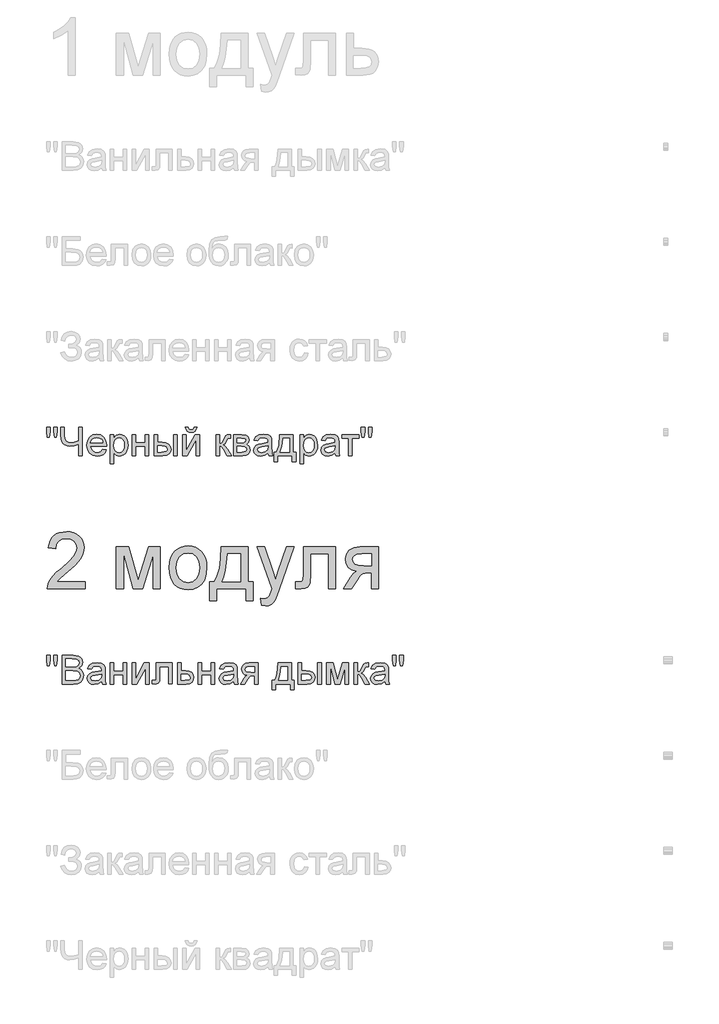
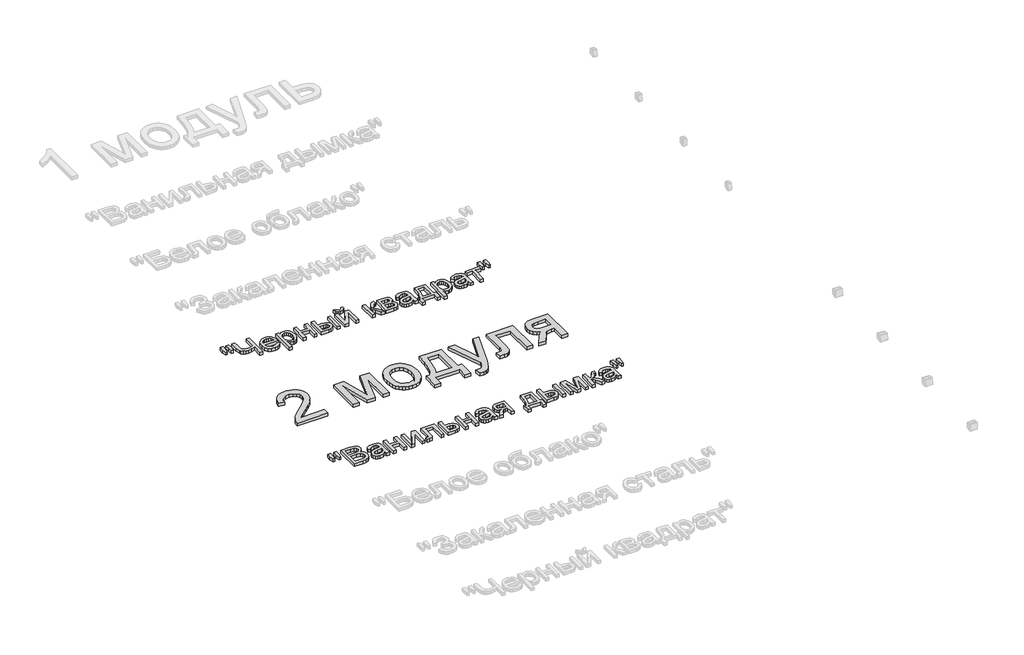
# One storey, part 25 of 168: 3 proxies.
"""IFC4 building model written with IfcOpenShell, lengths in millimetres."""

from ifc_helpers import new_model, si_unit, origin, origin_with_axes, place, context, project, spatial, polyline, outline, extrude, element, save

model = new_model("IFC4")

# Units and contexts
model_context = context("Model", 3, world=origin())
ifc_project = project(units=[si_unit("LENGTHUNIT", "METRE", prefix="MILLI")], contexts=[model_context])

# Site, building, storey
site = spatial("IfcSite", under=ifc_project)
building = spatial("IfcBuilding", under=site)
storey = spatial("IfcBuildingStorey", under=building, Name="Этаж 01", Elevation=0.0)

# Proxies
placement = place(None, origin())
element("IfcBuildingElementProxy", 1, Name="300 мм Arial 2", ObjectType="300 мм Arial 2", at=placement, inside=storey, context=model_context, shape_type="SweptSolid", body=[
    extrude(outline(polyline([(49278.0323041, -51229.1911814), (49278.0323041, -51266.8622977), (49080.2589435, -51266.8622977), (49084.3056455, -51240.8898289), (49093.5946658, -51220.5919398), (49107.1879056, -51200.901056), (49126.8511982, -51180.2904672), (49154.3503773, -51157.2334632), (49195.0013378, -51121.1258453), (49219.3919141, -51094.4727948), (49231.5872022, -51072.8413335), (49235.6522983, -51051.7984834), (49231.8171285, -51032.9353341), (49220.3116191, -51017.254364), (49202.6256922, -51006.6869537), (49180.2492698, -51003.1644836), (49156.7508074, -51006.6041802), (49138.4946633, -51016.9232702), (49126.7132424, -51033.3124131), (49122.6389493, -51054.9622685), (49084.967833, -51050.253379), (49094.1005036, -51013.8146674), (49102.6468622, -50999.27873), (49113.8465697, -50987.198405), (49127.4421086, -50977.702451), (49143.1759617, -50970.9196267), (49181.0586102, -50965.4933673), (49201.2484339, -50967.0016835), (49219.2171701, -50971.526632), (49234.9648188, -50979.0682129), (49248.4913799, -50989.6264262), (49259.3553951, -51002.4195226), (49267.1154059, -51016.6657528), (49271.7714124, -51032.365117), (49273.3234146, -51049.517615), (49271.6495515, -51067.5346357), (49266.6279623, -51085.2389567), (49257.7160209, -51103.2467804), (49244.3711016, -51122.174309), (49223.0983252, -51144.7714606), (49190.4028129, -51173.788153), (49147.0663138, -51210.0245295), (49130.0701657, -51229.1911814), (49278.0323041, -51229.1911814)])), origin_with_axes(), (0.0, 0.0, 1.0), 20.0),
    extrude(outline(polyline([(49442.843438, -51045.5444894), (49507.6642455, -51045.5444894), (49557.6226204, -51222.7164583), (49611.4805445, -51045.5444894), (49673.5790253, -51045.5444894), (49673.5790253, -51266.8622977), (49635.907909, -51266.8622977), (49635.907909, -51088.6602593), (49581.7556793, -51266.8622977), (49532.3123392, -51266.8622977), (49480.5145543, -51080.125397), (49480.5145543, -51266.8622977), (49442.843438, -51266.8622977), (49442.843438, -51045.5444894)])), origin_with_axes(), (0.0, 0.0, 1.0), 20.0),
    extrude(outline(polyline([(49720.6679207, -51156.2033936), (49722.7050673, -51127.5407876), (49728.8165069, -51102.8421102), (49739.0022396, -51082.1073612), (49753.2622655, -51065.3365408), (49767.6188603, -51054.6173791), (49783.4653773, -51046.9608351), (49800.8018163, -51042.3669087), (49819.6281774, -51040.8355999), (49840.4112109, -51042.7003018), (49859.203083, -51048.2944073), (49876.0037939, -51057.6179167), (49890.8133435, -51070.6708297), (49902.9005663, -51087.0116881), (49911.5342969, -51106.1990334), (49916.7145352, -51128.2328656), (49918.4412813, -51153.1131848), (49915.3878608, -51191.1705772), (49906.2275991, -51220.1412843), (49891.2272107, -51241.837125), (49870.6534101, -51258.069918), (49846.2168486, -51268.19587), (49819.6281774, -51271.5711873), (49798.5416413, -51269.7133832), (49779.5750252, -51264.139971), (49762.7283291, -51254.8509506), (49748.001553, -51241.8463221), (49736.0430888, -51225.3468146), (49727.5013288, -51205.5731573), (49722.3762727, -51182.5253503), (49720.6679207, -51156.2033936)]), holes=[polyline([(49758.339037, -51156.1298172), (49762.6984387, -51190.2232811), (49775.7766436, -51214.5126898), (49795.4583303, -51229.0532257), (49819.6281774, -51233.900071), (49843.6876599, -51229.0256345), (49863.3325584, -51214.4023252), (49876.4107634, -51189.7910197), (49880.770165, -51154.9525948), (49876.3831722, -51121.8524123), (49863.2221938, -51097.8940973), (49843.5497041, -51083.3535615), (49819.6281774, -51078.5067162), (49795.4583303, -51083.3351674), (49775.7766436, -51097.820521), (49762.6984387, -51122.0547474), (49758.339037, -51156.1298172)])]), origin_with_axes(), (0.0, 0.0, 1.0), 20.0),
    extrude(outline(polyline([(49993.7835139, -51045.5444894), (50135.0502001, -51045.5444894), (50135.0502001, -51229.1911814), (50163.3035373, -51229.1911814), (50163.3035373, -51328.0778617), (50125.632421, -51328.0778617), (50125.632421, -51266.8622977), (49970.2390662, -51266.8622977), (49970.2390662, -51328.0778617), (49932.5679499, -51328.0778617), (49932.5679499, -51229.1911814), (49956.1123976, -51229.1911814), (49973.2281074, -51198.2615027), (49985.2118634, -51157.3438278), (49992.0636656, -51106.4381567), (49993.7835139, -51045.5444894)]), holes=[polyline([(50026.7457407, -51083.2156057), (50023.6555319, -51129.3388109), (50017.9165728, -51169.0424752), (50009.5288633, -51202.3265987), (49998.4924035, -51229.1911814), (50097.3790838, -51229.1911814), (50097.3790838, -51083.2156057), (50026.7457407, -51083.2156057)])]), origin_with_axes(), (0.0, 0.0, 1.0), 20.0),
    extrude(outline(polyline([(50205.6835431, -51351.6223094), (50200.9746536, -51315.3491447), (50220.1045174, -51318.6600827), (50237.9835823, -51314.5030161), (50248.9464658, -51302.9147333), (50259.2471616, -51275.1764308), (50262.1902176, -51266.0529573), (50182.1390955, -51045.5444894), (50221.8703509, -51045.5444894), (50264.3239332, -51168.4170758), (50279.1127894, -51217.5661104), (50293.9016456, -51174.1560349), (50337.5324502, -51045.5444894), (50376.9694001, -51045.5444894), (50299.9349103, -51272.1597985), (50279.9221298, -51321.308833), (50269.6766162, -51336.9990001), (50258.0699393, -51347.8699131), (50244.5870641, -51354.2158775), (50228.712956, -51356.331199), (50205.6835431, -51351.6223094)])), origin_with_axes(), (0.0, 0.0, 1.0), 20.0),
    extrude(outline(polyline([(50427.0013514, -51045.5444894), (50596.5213748, -51045.5444894), (50596.5213748, -51266.6415685), (50558.8502585, -51266.6415685), (50558.8502585, -51083.2156057), (50464.6724678, -51083.2156057), (50464.6724678, -51188.7977384), (50462.134082, -51237.5053145), (50457.3792072, -51248.5325773), (50448.1913544, -51258.069918), (50434.2486268, -51264.6642028), (50415.2291276, -51266.8622977), (50384.6213456, -51264.9493114), (50384.6213456, -51229.1911814), (50401.470341, -51229.1911814), (50418.5032774, -51226.8735249), (50425.3090943, -51219.515885), (50427.0013514, -51186.6640228), (50427.0013514, -51045.5444894)])), origin_with_axes(), (0.0, 0.0, 1.0), 20.0),
    extrude(outline(polyline([(50822.5480727, -51045.5444894), (50822.5480727, -51266.8622977), (50784.8769564, -51266.8622977), (50784.8769564, -51182.102286), (50764.349141, -51182.102286), (50736.3901094, -51186.884752), (50725.2248908, -51197.3142065), (50710.1233349, -51219.0376384), (50680.1041641, -51266.8622977), (50636.5469359, -51266.8622977), (50674.365205, -51206.3824977), (50691.0670476, -51184.67746), (50706.444515, -51175.0389517), (50680.6927753, -51167.1478829), (50662.5929812, -51152.1566916), (50651.8876151, -51132.2174875), (50648.3191597, -51109.4823802), (50653.1935962, -51083.6938523), (50667.8169055, -51063.2764016), (50691.6740529, -51049.9774675), (50724.2500036, -51045.5444894), (50822.5480727, -51045.5444894)]), holes=[polyline([(50784.8769564, -51083.2156057), (50735.212887, -51083.2156057), (50709.5623149, -51085.3953066), (50695.0033849, -51091.934409), (50688.2435533, -51101.3981734), (50685.9902761, -51112.3518598), (50689.3104111, -51126.7084546), (50699.2708161, -51136.6688596), (50717.6741129, -51142.4905922), (50746.3229233, -51144.4311697), (50784.8769564, -51144.4311697), (50784.8769564, -51083.2156057)])]), origin_with_axes(), (0.0, 0.0, 1.0), 20.0),
])
element("IfcBuildingElementProxy", 2, Name="150", ObjectType="150", at=placement, inside=storey, context=model_context, shape_type="SweptSolid", body=[
    extrude(outline(polyline([(49080.1485789, -50470.3300622), (49075.550054, -50441.2305964), (49075.550054, -50416.1778325), (49094.3856121, -50416.1778325), (49094.3856121, -50441.2305964), (49090.2653338, -50470.3300622), (49080.1485789, -50470.3300622)])), origin_with_axes(), (0.0, 0.0, 1.0), 20.0),
    extrude(outline(polyline([(49117.7093306, -50470.3300622), (49113.2211703, -50441.2305964), (49113.2211703, -50416.1778325), (49132.0567284, -50416.1778325), (49132.0567284, -50441.2305964), (49127.6421445, -50470.3300622), (49117.7093306, -50470.3300622)])), origin_with_axes(), (0.0, 0.0, 1.0), 20.0),
    extrude(outline(polyline([(49263.9056355, -50566.8622977), (49245.0700773, -50566.8622977), (49245.0700773, -50506.5296505), (49220.0908899, -50514.6966308), (49198.4226404, -50517.4189576), (49183.7395502, -50515.556555), (49170.886673, -50509.9693472), (49160.926268, -50501.5172583), (49154.9205944, -50491.0602126), (49150.8922866, -50461.0594359), (49150.8922866, -50416.1778325), (49169.7278447, -50416.1778325), (49169.7278447, -50458.5210502), (49171.990319, -50478.8879171), (49178.7777418, -50490.8394834), (49188.7381468, -50496.6474204), (49200.5195677, -50498.5833994), (49222.2521966, -50496.2473488), (49245.0700773, -50489.2391968), (49245.0700773, -50416.1778325), (49263.9056355, -50416.1778325), (49263.9056355, -50566.8622977)])), origin_with_axes(), (0.0, 0.0, 1.0), 20.0),
    extrude(outline(polyline([(49371.9893657, -50533.900071), (49390.4570418, -50536.2545157), (49383.8029762, -50550.1696522), (49373.1849822, -50560.5715156), (49358.8421829, -50567.0554358), (49341.0137017, -50569.2167425), (49318.9131908, -50565.4873388), (49301.9078456, -50554.2991276), (49291.0645238, -50536.3786759), (49287.4500832, -50512.4525506), (49291.101312, -50487.7216835), (49302.0549984, -50469.2264162), (49318.8304174, -50457.6933157), (49339.9468439, -50453.8489488), (49360.4056814, -50457.6841186), (49376.7534375, -50469.189628), (49387.4725992, -50487.6481071), (49391.045653, -50512.342186), (49390.9352884, -50517.4189576), (49306.2856413, -50517.4189576), (49309.5459955, -50531.518035), (49317.1197661, -50541.8831103), (49328.0504599, -50548.2566658), (49341.3815837, -50550.3811843), (49359.8492598, -50546.444847), (49371.9893657, -50533.900071)]), holes=[polyline([(49306.2856413, -50498.5833994), (49372.2100949, -50498.5833994), (49369.6625121, -50488.6321915), (49364.668514, -50481.5136749), (49353.6872364, -50474.8917989), (49339.8732675, -50472.684507), (49327.1767401, -50474.445742), (49316.6783077, -50479.7294472), (49309.3804486, -50487.9654053), (49306.2856413, -50498.5833994)])]), origin_with_axes(), (0.0, 0.0, 1.0), 20.0),
    extrude(outline(polyline([(49409.8812112, -50609.2423036), (49409.8812112, -50456.2033936), (49428.7167693, -50456.2033936), (49428.7167693, -50474.6710697), (49441.739792, -50459.054479), (49459.3245513, -50453.8489488), (49472.0624654, -50455.6699647), (49483.2000928, -50461.1330123), (49492.268384, -50469.9069979), (49498.7982894, -50481.6608277), (49504.0590019, -50510.6867171), (49502.5736784, -50526.7953499), (49498.1177077, -50541.2025286), (49490.8336442, -50553.1770875), (49480.8640422, -50561.9878613), (49469.2527667, -50567.4095222), (49457.043683, -50569.2167425), (49440.6545401, -50564.3790943), (49428.7167693, -50552.1470179), (49428.7167693, -50609.2423036), (49409.8812112, -50609.2423036)]), holes=[polyline([(49428.7167693, -50512.4157624), (49430.7539159, -50529.301546), (49436.8653555, -50541.1105581), (49445.8830629, -50548.0635278), (49456.6390128, -50550.3811843), (49467.5697066, -50547.9807543), (49476.8173402, -50540.7794643), (49483.1219179, -50528.5381909), (49485.2234438, -50511.0178109), (49483.1725017, -50494.2239978), (49477.0196753, -50482.2494388), (49468.0157635, -50475.0757399), (49457.411565, -50472.684507), (49446.7659797, -50475.2274913), (49437.4171785, -50482.8564441), (49430.8918716, -50495.3322423), (49428.7167693, -50512.4157624)])]), origin_with_axes(), (0.0, 0.0, 1.0), 20.0),
    extrude(outline(polyline([(49525.2490049, -50456.2033936), (49544.084563, -50456.2033936), (49544.084563, -50498.5833994), (49593.5279032, -50498.5833994), (49593.5279032, -50456.2033936), (49612.3634613, -50456.2033936), (49612.3634613, -50566.8622977), (49593.5279032, -50566.8622977), (49593.5279032, -50517.4189576), (49544.084563, -50517.4189576), (49544.084563, -50566.8622977), (49525.2490049, -50566.8622977), (49525.2490049, -50456.2033936)])), origin_with_axes(), (0.0, 0.0, 1.0), 20.0),
    extrude(outline(polyline([(49744.2123684, -50456.2033936), (49763.0479266, -50456.2033936), (49763.0479266, -50566.8622977), (49744.2123684, -50566.8622977), (49744.2123684, -50456.2033936)])), origin_with_axes(), (0.0, 0.0, 1.0), 20.0),
    extrude(outline(polyline([(49640.6167986, -50456.2033936), (49659.4523567, -50456.2033936), (49659.4523567, -50496.2289547), (49682.739287, -50496.2289547), (49702.8670307, -50498.587998), (49717.780047, -50505.6651278), (49727.0092866, -50516.8901272), (49730.0856998, -50531.692779), (49727.5059273, -50545.1710556), (49719.7666098, -50556.5432078), (49706.3619096, -50564.2825252), (49686.785989, -50566.8622977), (49640.6167986, -50566.8622977), (49640.6167986, -50456.2033936)]), holes=[polyline([(49659.4523567, -50548.0267396), (49678.8029497, -50548.0267396), (49703.7821371, -50544.0720081), (49709.3831405, -50539.0090322), (49711.2501416, -50531.7295672), (49705.7135176, -50520.1412843), (49696.8337659, -50516.3337057), (49681.267759, -50515.0645128), (49659.4523567, -50515.0645128), (49659.4523567, -50548.0267396)])]), origin_with_axes(), (0.0, 0.0, 1.0), 20.0),
    extrude(outline(polyline([(49791.3012638, -50456.2033936), (49810.1368219, -50456.2033936), (49810.1368219, -50540.5955233), (49856.4163769, -50456.2033936), (49880.770165, -50456.2033936), (49880.770165, -50566.8622977), (49861.9346069, -50566.8622977), (49861.9346069, -50482.9852028), (49815.9493575, -50566.8622977), (49791.3012638, -50566.8622977), (49791.3012638, -50456.2033936)])), origin_with_axes(), (0.0, 0.0, 1.0), 20.0),
    extrude(outline(polyline([(49852.5168278, -50416.1778325), (49866.6434964, -50416.1778325), (49863.6038714, -50428.2397634), (49857.5016288, -50437.1287121), (49848.6126801, -50442.6055553), (49837.2129368, -50444.4311697), (49824.8429047, -50442.6193509), (49815.2503817, -50437.1838944), (49808.6928851, -50428.3087413), (49805.4279324, -50416.1778325), (49819.554601, -50416.1778325), (49824.8521017, -50426.7912281), (49835.5206796, -50430.3045011), (49847.219327, -50426.9015927), (49852.5168278, -50416.1778325)])), origin_with_axes(), (0.0, 0.0, 1.0), 20.0),
    extrude(outline(polyline([(49967.8846215, -50456.2033936), (49986.7201796, -50456.2033936), (49986.7201796, -50503.292289), (49999.3385321, -50499.9077746), (50009.6760161, -50480.1892997), (50018.2660607, -50463.1747574), (50025.8444298, -50457.6381334), (50039.6216105, -50456.2033936), (50043.2268541, -50456.2033936), (50043.2268541, -50475.1493163), (50038.1500825, -50475.0389517), (50028.9530327, -50477.0255145), (50022.4783096, -50489.4231377), (50014.8815464, -50502.8324365), (50004.2313626, -50509.3991301), (50016.113951, -50516.7291788), (50027.7758103, -50532.1710256), (50047.9357436, -50566.8622977), (50026.5250115, -50566.8622977), (50006.7697484, -50532.9067896), (49996.8369345, -50518.5409977), (49986.7201796, -50515.0645128), (49986.7201796, -50566.8622977), (49967.8846215, -50566.8622977), (49967.8846215, -50456.2033936)])), origin_with_axes(), (0.0, 0.0, 1.0), 20.0),
    extrude(outline(polyline([(50059.7079675, -50456.2033936), (50101.2050565, -50456.2033936), (50123.9585579, -50458.7233853), (50136.7608514, -50467.9572233), (50142.1135344, -50484.0520606), (50138.8761728, -50497.1302655), (50129.1273, -50506.4560741), (50141.7824406, -50516.6647995), (50146.8224239, -50534.4151058), (50143.6310476, -50548.7717006), (50136.0434815, -50558.8792584), (50124.0321343, -50564.8665379), (50107.569415, -50566.8622977), (50059.7079675, -50566.8622977), (50059.7079675, -50456.2033936)]), holes=[polyline([(50078.5435256, -50498.5833994), (50097.1583546, -50498.5833994), (50112.5174279, -50497.6269062), (50119.9854324, -50493.8009335), (50123.2779762, -50486.884752), (50121.8340394, -50481.2653545), (50117.5022289, -50477.6509139), (50097.7469658, -50475.0389517), (50078.5435256, -50475.0389517), (50078.5435256, -50498.5833994)]), polyline([(50078.5435256, -50548.0267396), (50101.6465149, -50548.0267396), (50122.137542, -50544.6238311), (50126.377382, -50539.9839195), (50127.9868658, -50532.8700014), (50124.7678983, -50523.8017102), (50116.3801888, -50518.5226036), (50099.8071049, -50517.4189576), (50078.5435256, -50517.4189576), (50078.5435256, -50548.0267396)])]), origin_with_axes(), (0.0, 0.0, 1.0), 20.0),
    extrude(outline(polyline([(50241.0002147, -50552.7356291), (50222.7348736, -50565.5011344), (50202.5565462, -50569.2167425), (50186.8157953, -50566.9818594), (50175.2045198, -50560.27721), (50168.0446165, -50550.0960758), (50165.6579821, -50537.4317381), (50169.2632256, -50522.5325173), (50178.736187, -50511.7167867), (50191.9247565, -50505.5363691), (50208.2219289, -50502.7036778), (50240.8898501, -50496.2289547), (50241.0002147, -50492.0350999), (50239.7034307, -50483.6289963), (50235.8130786, -50478.1291605), (50227.1126694, -50474.0456704), (50214.9909576, -50472.684507), (50195.9346703, -50476.3081446), (50186.847985, -50489.1656204), (50168.0124268, -50486.8111756), (50176.161013, -50468.4170758), (50192.56855, -50457.6381334), (50217.4189788, -50453.8489488), (50240.2460566, -50457.196675), (50253.1403205, -50465.6027786), (50258.9160679, -50478.3866779), (50259.8357728, -50494.8677913), (50259.8357728, -50518.3018744), (50260.792266, -50551.0249778), (50264.5446624, -50566.8622977), (50245.7091042, -50566.8622977), (50241.0002147, -50552.7356291)]), holes=[polyline([(50241.0002147, -50515.0645128), (50210.6131619, -50520.8402601), (50194.40796, -50523.8936807), (50187.0687142, -50528.8600876), (50184.4935402, -50536.1073629), (50190.1037407, -50546.2976942), (50206.5664599, -50550.3811843), (50225.6227473, -50545.8746299), (50237.9100059, -50534.9669288), (50240.8898501, -50520.3988017), (50241.0002147, -50515.0645128)])]), origin_with_axes(), (0.0, 0.0, 1.0), 20.0),
    extrude(outline(polyline([(50302.2157787, -50456.2033936), (50372.8491218, -50456.2033936), (50372.8491218, -50548.0267396), (50386.9757904, -50548.0267396), (50386.9757904, -50597.4700797), (50368.1402322, -50597.4700797), (50368.1402322, -50566.8622977), (50290.4435548, -50566.8622977), (50290.4435548, -50597.4700797), (50271.6079967, -50597.4700797), (50271.6079967, -50548.0267396), (50283.3802205, -50548.0267396), (50291.9380754, -50532.5619002), (50297.9299534, -50512.1030628), (50302.2157787, -50456.2033936)]), holes=[polyline([(50318.6968921, -50475.0389517), (50314.2823081, -50517.9523865), (50304.5702235, -50548.0267396), (50354.0135636, -50548.0267396), (50354.0135636, -50475.0389517), (50318.6968921, -50475.0389517)])]), origin_with_axes(), (0.0, 0.0, 1.0), 20.0),
    extrude(outline(polyline([(50408.1657933, -50609.2423036), (50408.1657933, -50456.2033936), (50427.0013514, -50456.2033936), (50427.0013514, -50474.6710697), (50440.0243741, -50459.054479), (50457.6091334, -50453.8489488), (50470.3470475, -50455.6699647), (50481.4846749, -50461.1330123), (50490.5529661, -50469.9069979), (50497.0828715, -50481.6608277), (50502.3435841, -50510.6867171), (50500.8582605, -50526.7953499), (50496.4022898, -50541.2025286), (50489.1182263, -50553.1770875), (50479.1486243, -50561.9878613), (50467.5373488, -50567.4095222), (50455.3282651, -50569.2167425), (50438.9391222, -50564.3790943), (50427.0013514, -50552.1470179), (50427.0013514, -50609.2423036), (50408.1657933, -50609.2423036)]), holes=[polyline([(50427.0013514, -50512.4157624), (50429.038498, -50529.301546), (50435.1499376, -50541.1105581), (50444.167645, -50548.0635278), (50454.9235949, -50550.3811843), (50465.8542887, -50547.9807543), (50475.1019223, -50540.7794643), (50481.4065, -50528.5381909), (50483.5080259, -50511.0178109), (50481.4570838, -50494.2239978), (50475.3042574, -50482.2494388), (50466.3003456, -50475.0757399), (50455.6961471, -50472.684507), (50445.0505618, -50475.2274913), (50435.7017606, -50482.8564441), (50429.1764537, -50495.3322423), (50427.0013514, -50512.4157624)])]), origin_with_axes(), (0.0, 0.0, 1.0), 20.0),
    extrude(outline(polyline([(50594.1669301, -50552.7356291), (50575.901589, -50565.5011344), (50555.7232616, -50569.2167425), (50539.9825107, -50566.9818594), (50528.3712352, -50560.27721), (50521.2113319, -50550.0960758), (50518.8246974, -50537.4317381), (50522.429941, -50522.5325173), (50531.9029024, -50511.7167867), (50545.0914719, -50505.5363691), (50561.3886443, -50502.7036778), (50594.0565655, -50496.2289547), (50594.1669301, -50492.0350999), (50592.870146, -50483.6289963), (50588.9797939, -50478.1291605), (50580.2793847, -50474.0456704), (50568.157673, -50472.684507), (50549.1013856, -50476.3081446), (50540.0147004, -50489.1656204), (50521.1791422, -50486.8111756), (50529.3277284, -50468.4170758), (50545.7352654, -50457.6381334), (50570.5856942, -50453.8489488), (50593.412772, -50457.196675), (50606.3070359, -50465.6027786), (50612.0827832, -50478.3866779), (50613.0024882, -50494.8677913), (50613.0024882, -50518.3018744), (50613.9589814, -50551.0249778), (50617.7113777, -50566.8622977), (50598.8758196, -50566.8622977), (50594.1669301, -50552.7356291)]), holes=[polyline([(50594.1669301, -50515.0645128), (50563.7798773, -50520.8402601), (50547.5746754, -50523.8936807), (50540.2354296, -50528.8600876), (50537.6602556, -50536.1073629), (50543.270456, -50546.2976942), (50559.7331753, -50550.3811843), (50578.7894627, -50545.8746299), (50591.0767213, -50534.9669288), (50594.0565655, -50520.3988017), (50594.1669301, -50515.0645128)])]), origin_with_axes(), (0.0, 0.0, 1.0), 20.0),
    extrude(outline(polyline([(50629.4836016, -50456.2033936), (50718.9525028, -50456.2033936), (50718.9525028, -50475.0389517), (50683.6358313, -50475.0389517), (50683.6358313, -50566.8622977), (50664.8002731, -50566.8622977), (50664.8002731, -50475.0389517), (50629.4836016, -50475.0389517), (50629.4836016, -50456.2033936)])), origin_with_axes(), (0.0, 0.0, 1.0), 20.0),
    extrude(outline(polyline([(50735.3232516, -50470.3300622), (50730.7247267, -50441.2305964), (50730.7247267, -50416.1778325), (50749.5602848, -50416.1778325), (50749.5602848, -50441.2305964), (50745.4400065, -50470.3300622), (50735.3232516, -50470.3300622)])), origin_with_axes(), (0.0, 0.0, 1.0), 20.0),
    extrude(outline(polyline([(50772.8840033, -50470.3300622), (50768.395843, -50441.2305964), (50768.395843, -50416.1778325), (50787.2314011, -50416.1778325), (50787.2314011, -50441.2305964), (50782.8168172, -50470.3300622), (50772.8840033, -50470.3300622)])), origin_with_axes(), (0.0, 0.0, 1.0), 20.0),
])
element("IfcBuildingElementProxy", 3, Name="150", ObjectType="150", at=placement, inside=storey, context=model_context, shape_type="SweptSolid", body=[
    extrude(outline(polyline([(49080.1485789, -51670.3300622), (49075.550054, -51641.2305964), (49075.550054, -51616.1778325), (49094.3856121, -51616.1778325), (49094.3856121, -51641.2305964), (49090.2653338, -51670.3300622), (49080.1485789, -51670.3300622)])), origin_with_axes(), (0.0, 0.0, 1.0), 20.0),
    extrude(outline(polyline([(49117.7093306, -51670.3300622), (49113.2211703, -51641.2305964), (49113.2211703, -51616.1778325), (49132.0567284, -51616.1778325), (49132.0567284, -51641.2305964), (49127.6421445, -51670.3300622), (49117.7093306, -51670.3300622)])), origin_with_axes(), (0.0, 0.0, 1.0), 20.0),
    extrude(outline(polyline([(49157.9556209, -51766.8622977), (49157.9556209, -51616.1778325), (49215.4555767, -51616.1778325), (49243.6169435, -51620.6108106), (49253.0807078, -51626.2348066), (49260.2452096, -51634.2408385), (49266.2600803, -51653.517855), (49261.2017028, -51671.1210085), (49245.9162059, -51684.4567308), (49256.5893823, -51690.030143), (49264.4758526, -51698.509823), (49269.3456905, -51709.3347507), (49270.9689698, -51721.9439061), (49266.5359918, -51742.19581), (49255.5547142, -51756.6167842), (49239.1655713, -51764.2687297), (49215.0141183, -51766.8622977), (49157.9556209, -51766.8622977)]), holes=[polyline([(49176.791179, -51677.3933965), (49211.1881456, -51677.3933965), (49231.2745025, -51675.7747157), (49243.3594261, -51668.8033519), (49247.4245221, -51656.5344874), (49243.6353376, -51644.2472287), (49232.7828187, -51636.9815593), (49208.5761834, -51635.0133907), (49176.791179, -51635.0133907), (49176.791179, -51677.3933965)]), polyline([(49176.791179, -51748.0267396), (49215.4187885, -51748.0267396), (49229.3983043, -51747.2909756), (49241.2257105, -51743.1890913), (49249.061597, -51734.819776), (49252.1334117, -51722.1278471), (49248.5281681, -51707.4861437), (49236.8479148, -51698.7489463), (49213.5793786, -51696.2289547), (49176.791179, -51696.2289547), (49176.791179, -51748.0267396)])]), origin_with_axes(), (0.0, 0.0, 1.0), 20.0),
    extrude(outline(polyline([(49365.1467606, -51752.7356291), (49346.8814195, -51765.5011344), (49326.7030921, -51769.2167425), (49310.9623412, -51766.9818594), (49299.3510657, -51760.27721), (49292.1911624, -51750.0960758), (49289.804528, -51737.4317381), (49293.4097715, -51722.5325173), (49302.8827329, -51711.7167867), (49316.0713024, -51705.5363691), (49332.3684748, -51702.7036778), (49365.036396, -51696.2289547), (49365.1467606, -51692.0350999), (49363.8499765, -51683.6289963), (49359.9596244, -51678.1291605), (49351.2592153, -51674.0456704), (49339.1375035, -51672.684507), (49320.0812162, -51676.3081446), (49310.9945309, -51689.1656204), (49292.1589727, -51686.8111756), (49300.3075589, -51668.4170758), (49316.7150959, -51657.6381334), (49341.5655247, -51653.8489488), (49364.3926025, -51657.196675), (49377.2868664, -51665.6027786), (49383.0626137, -51678.3866779), (49383.9823187, -51694.8677913), (49383.9823187, -51718.3018744), (49384.9388119, -51751.0249778), (49388.6912083, -51766.8622977), (49369.8556501, -51766.8622977), (49365.1467606, -51752.7356291)]), holes=[polyline([(49365.1467606, -51715.0645128), (49334.7597078, -51720.8402601), (49318.5545059, -51723.8936807), (49311.2152601, -51728.8600876), (49308.6400861, -51736.1073629), (49314.2502865, -51746.2976942), (49330.7130058, -51750.3811843), (49349.7692932, -51745.8746299), (49362.0565518, -51734.9669288), (49365.036396, -51720.3988017), (49365.1467606, -51715.0645128)])]), origin_with_axes(), (0.0, 0.0, 1.0), 20.0),
    extrude(outline(polyline([(49409.8812112, -51656.2033936), (49428.7167693, -51656.2033936), (49428.7167693, -51698.5833994), (49478.1601095, -51698.5833994), (49478.1601095, -51656.2033936), (49496.9956676, -51656.2033936), (49496.9956676, -51766.8622977), (49478.1601095, -51766.8622977), (49478.1601095, -51717.4189576), (49428.7167693, -51717.4189576), (49428.7167693, -51766.8622977), (49409.8812112, -51766.8622977), (49409.8812112, -51656.2033936)])), origin_with_axes(), (0.0, 0.0, 1.0), 20.0),
    extrude(outline(polyline([(49525.2490049, -51656.2033936), (49544.084563, -51656.2033936), (49544.084563, -51740.5955233), (49590.364118, -51656.2033936), (49614.7179061, -51656.2033936), (49614.7179061, -51766.8622977), (49595.8823479, -51766.8622977), (49595.8823479, -51682.9852028), (49549.8970985, -51766.8622977), (49525.2490049, -51766.8622977), (49525.2490049, -51656.2033936)])), origin_with_axes(), (0.0, 0.0, 1.0), 20.0),
    extrude(outline(polyline([(49652.3890224, -51656.2033936), (49737.1490341, -51656.2033936), (49737.1490341, -51766.7519331), (49718.3134759, -51766.7519331), (49718.3134759, -51675.0389517), (49671.2245806, -51675.0389517), (49671.2245806, -51727.830018), (49669.9553877, -51752.1838061), (49662.9840239, -51762.4661079), (49646.5029105, -51766.8622977), (49631.1990195, -51765.9058045), (49631.1990195, -51748.0267396), (49639.6235172, -51748.0267396), (49648.1399854, -51746.8679113), (49651.5428938, -51743.1890913), (49652.3890224, -51726.7631603), (49652.3890224, -51656.2033936)])), origin_with_axes(), (0.0, 0.0, 1.0), 20.0),
    extrude(outline(polyline([(49765.4023713, -51656.2033936), (49784.2379295, -51656.2033936), (49784.2379295, -51696.2289547), (49805.9429672, -51696.2289547), (49824.7601312, -51698.587998), (49838.6844648, -51705.6651278), (49847.2929034, -51716.8901272), (49850.162383, -51731.692779), (49847.7205663, -51745.1710556), (49840.395116, -51756.5432078), (49827.6985887, -51764.2825252), (49809.1435405, -51766.8622977), (49765.4023713, -51766.8622977), (49765.4023713, -51656.2033936)]), holes=[polyline([(49784.2379295, -51748.0267396), (49801.8226888, -51748.0267396), (49824.539402, -51744.0720081), (49829.6299692, -51739.0090322), (49831.3268249, -51731.7295672), (49826.3052356, -51720.1412843), (49818.2348244, -51716.3337057), (49804.066769, -51715.0645128), (49784.2379295, -51715.0645128), (49784.2379295, -51748.0267396)])]), origin_with_axes(), (0.0, 0.0, 1.0), 20.0),
    extrude(outline(polyline([(49873.7068307, -51656.2033936), (49892.5423889, -51656.2033936), (49892.5423889, -51698.5833994), (49941.985729, -51698.5833994), (49941.985729, -51656.2033936), (49960.8212872, -51656.2033936), (49960.8212872, -51766.8622977), (49941.985729, -51766.8622977), (49941.985729, -51717.4189576), (49892.5423889, -51717.4189576), (49892.5423889, -51766.8622977), (49873.7068307, -51766.8622977), (49873.7068307, -51656.2033936)])), origin_with_axes(), (0.0, 0.0, 1.0), 20.0),
    extrude(outline(polyline([(50059.7079675, -51752.7356291), (50041.4426264, -51765.5011344), (50021.264299, -51769.2167425), (50005.5235481, -51766.9818594), (49993.9122726, -51760.27721), (49986.7523693, -51750.0960758), (49984.3657349, -51737.4317381), (49987.9709784, -51722.5325173), (49997.4439398, -51711.7167867), (50010.6325093, -51705.5363691), (50026.9296817, -51702.7036778), (50059.5976029, -51696.2289547), (50059.7079675, -51692.0350999), (50058.4111834, -51683.6289963), (50054.5208313, -51678.1291605), (50045.8204221, -51674.0456704), (50033.6987104, -51672.684507), (50014.6424231, -51676.3081446), (50005.5557378, -51689.1656204), (49986.7201796, -51686.8111756), (49994.8687658, -51668.4170758), (50011.2763028, -51657.6381334), (50036.1267316, -51653.8489488), (50058.9538094, -51657.196675), (50071.8480733, -51665.6027786), (50077.6238206, -51678.3866779), (50078.5435256, -51694.8677913), (50078.5435256, -51718.3018744), (50079.5000188, -51751.0249778), (50083.2524152, -51766.8622977), (50064.416857, -51766.8622977), (50059.7079675, -51752.7356291)]), holes=[polyline([(50059.7079675, -51715.0645128), (50029.3209147, -51720.8402601), (50013.1157128, -51723.8936807), (50005.776467, -51728.8600876), (50003.201293, -51736.1073629), (50008.8114934, -51746.2976942), (50025.2742127, -51750.3811843), (50044.3305001, -51745.8746299), (50056.6177587, -51734.9669288), (50059.5976029, -51720.3988017), (50059.7079675, -51715.0645128)])]), origin_with_axes(), (0.0, 0.0, 1.0), 20.0),
    extrude(outline(polyline([(50189.2024298, -51656.2033936), (50189.2024298, -51766.8622977), (50170.3668716, -51766.8622977), (50170.3668716, -51724.4822919), (50160.1029639, -51724.4822919), (50146.1234481, -51726.8735249), (50132.9900609, -51742.949968), (50117.9804755, -51766.8622977), (50096.2018614, -51766.8622977), (50115.1109959, -51736.6223977), (50123.4619172, -51725.7698789), (50131.1506509, -51720.9506247), (50118.2747811, -51717.0050903), (50109.224884, -51709.5094947), (50103.872201, -51699.5398926), (50102.0879733, -51688.172339), (50104.5251915, -51675.278075), (50111.8368462, -51665.0693497), (50123.7654199, -51658.4198826), (50140.0533952, -51656.2033936), (50189.2024298, -51656.2033936)]), holes=[polyline([(50170.3668716, -51675.0389517), (50145.5348369, -51675.0389517), (50132.7095509, -51676.1288021), (50125.4300859, -51679.3983534), (50120.9235315, -51689.6070787), (50122.583599, -51696.7853762), (50127.5638015, -51701.7655787), (50151.0898551, -51705.6467337), (50170.3668716, -51705.6467337), (50170.3668716, -51675.0389517)])]), origin_with_axes(), (0.0, 0.0, 1.0), 20.0),
    extrude(outline(polyline([(50292.7979996, -51656.2033936), (50363.4313427, -51656.2033936), (50363.4313427, -51748.0267396), (50377.5580113, -51748.0267396), (50377.5580113, -51797.4700797), (50358.7224531, -51797.4700797), (50358.7224531, -51766.8622977), (50281.0257758, -51766.8622977), (50281.0257758, -51797.4700797), (50262.1902176, -51797.4700797), (50262.1902176, -51748.0267396), (50273.9624415, -51748.0267396), (50282.5202964, -51732.5619002), (50288.5121744, -51712.1030628), (50292.7979996, -51656.2033936)]), holes=[polyline([(50309.279113, -51675.0389517), (50304.864529, -51717.9523865), (50295.1524444, -51748.0267396), (50344.5957845, -51748.0267396), (50344.5957845, -51675.0389517), (50309.279113, -51675.0389517)])]), origin_with_axes(), (0.0, 0.0, 1.0), 20.0),
    extrude(outline(polyline([(50502.3435841, -51656.2033936), (50521.1791422, -51656.2033936), (50521.1791422, -51766.8622977), (50502.3435841, -51766.8622977), (50502.3435841, -51656.2033936)])), origin_with_axes(), (0.0, 0.0, 1.0), 20.0),
    extrude(outline(polyline([(50398.7480142, -51656.2033936), (50417.5835724, -51656.2033936), (50417.5835724, -51696.2289547), (50440.8705027, -51696.2289547), (50460.9982463, -51698.587998), (50475.9112627, -51705.6651278), (50485.1405023, -51716.8901272), (50488.2169154, -51731.692779), (50485.637143, -51745.1710556), (50477.8978255, -51756.5432078), (50464.4931253, -51764.2825252), (50444.9172046, -51766.8622977), (50398.7480142, -51766.8622977), (50398.7480142, -51656.2033936)]), holes=[polyline([(50417.5835724, -51748.0267396), (50436.9341653, -51748.0267396), (50461.9133528, -51744.0720081), (50467.5143562, -51739.0090322), (50469.3813573, -51731.7295672), (50463.8447333, -51720.1412843), (50454.9649816, -51716.3337057), (50439.3989747, -51715.0645128), (50417.5835724, -51715.0645128), (50417.5835724, -51748.0267396)])]), origin_with_axes(), (0.0, 0.0, 1.0), 20.0),
    extrude(outline(polyline([(50549.4324794, -51656.2033936), (50581.8428832, -51656.2033936), (50606.8220707, -51744.789378), (50633.7510327, -51656.2033936), (50664.8002731, -51656.2033936), (50664.8002731, -51766.8622977), (50645.964715, -51766.8622977), (50645.964715, -51677.7612785), (50618.8886001, -51766.8622977), (50594.1669301, -51766.8622977), (50568.2680376, -51673.4938474), (50568.2680376, -51766.8622977), (50549.4324794, -51766.8622977), (50549.4324794, -51656.2033936)])), origin_with_axes(), (0.0, 0.0, 1.0), 20.0),
    extrude(outline(polyline([(50693.0536104, -51656.2033936), (50711.8891685, -51656.2033936), (50711.8891685, -51703.292289), (50724.5075209, -51699.9077746), (50734.845005, -51680.1892997), (50743.4350496, -51663.1747574), (50751.0134187, -51657.6381334), (50764.7905994, -51656.2033936), (50768.395843, -51656.2033936), (50768.395843, -51675.1493163), (50763.3190714, -51675.0389517), (50754.1220216, -51677.0255145), (50747.6472984, -51689.4231377), (50740.0505352, -51702.8324365), (50729.4003515, -51709.3991301), (50741.2829399, -51716.7291788), (50752.9447992, -51732.1710256), (50773.1047325, -51766.8622977), (50751.6940004, -51766.8622977), (50731.9387372, -51732.9067896), (50722.0059234, -51718.5409977), (50711.8891685, -51715.0645128), (50711.8891685, -51766.8622977), (50693.0536104, -51766.8622977), (50693.0536104, -51656.2033936)])), origin_with_axes(), (0.0, 0.0, 1.0), 20.0),
    extrude(outline(polyline([(50855.5102994, -51752.7356291), (50837.2449584, -51765.5011344), (50817.0666309, -51769.2167425), (50801.3258801, -51766.9818594), (50789.7146046, -51760.27721), (50782.5547013, -51750.0960758), (50780.1680668, -51737.4317381), (50783.7733104, -51722.5325173), (50793.2462717, -51711.7167867), (50806.4348413, -51705.5363691), (50822.7320137, -51702.7036778), (50855.3999348, -51696.2289547), (50855.5102994, -51692.0350999), (50854.2135154, -51683.6289963), (50850.3231633, -51678.1291605), (50841.6227541, -51674.0456704), (50829.5010424, -51672.684507), (50810.444755, -51676.3081446), (50801.3580697, -51689.1656204), (50782.5225116, -51686.8111756), (50790.6710978, -51668.4170758), (50807.0786348, -51657.6381334), (50831.9290635, -51653.8489488), (50854.7561413, -51657.196675), (50867.6504053, -51665.6027786), (50873.4261526, -51678.3866779), (50874.3458576, -51694.8677913), (50874.3458576, -51718.3018744), (50875.3023508, -51751.0249778), (50879.0547471, -51766.8622977), (50860.219189, -51766.8622977), (50855.5102994, -51752.7356291)]), holes=[polyline([(50855.5102994, -51715.0645128), (50825.1232466, -51720.8402601), (50808.9180447, -51723.8936807), (50801.5787989, -51728.8600876), (50799.003625, -51736.1073629), (50804.6138254, -51746.2976942), (50821.0765447, -51750.3811843), (50840.132832, -51745.8746299), (50852.4200907, -51734.9669288), (50855.3999348, -51720.3988017), (50855.5102994, -51715.0645128)])]), origin_with_axes(), (0.0, 0.0, 1.0), 20.0),
    extrude(outline(polyline([(50900.1343854, -51670.3300622), (50895.5358605, -51641.2305964), (50895.5358605, -51616.1778325), (50914.3714187, -51616.1778325), (50914.3714187, -51641.2305964), (50910.2511403, -51670.3300622), (50900.1343854, -51670.3300622)])), origin_with_axes(), (0.0, 0.0, 1.0), 20.0),
    extrude(outline(polyline([(50937.6951372, -51670.3300622), (50933.2069768, -51641.2305964), (50933.2069768, -51616.1778325), (50952.042535, -51616.1778325), (50952.042535, -51641.2305964), (50947.627951, -51670.3300622), (50937.6951372, -51670.3300622)])), origin_with_axes(), (0.0, 0.0, 1.0), 20.0),
])

save(model, "model.ifc")
